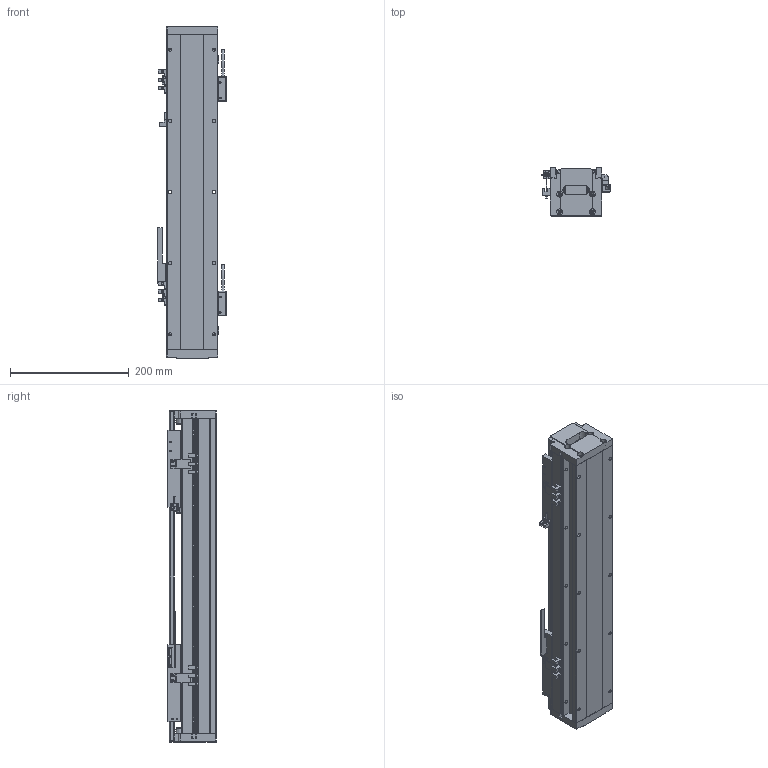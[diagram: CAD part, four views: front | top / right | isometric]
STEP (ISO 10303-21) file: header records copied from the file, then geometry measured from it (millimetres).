
FILE_DESCRIPTION (( 'STEP AP214' ), '1' );
FILE_NAME ('STC086-A-P-0362-2F105-MB-010-0.3.STEP', '2023-05-11T03:12:06', ( '' ), ( '' ), 'SwSTEP 2.0', 'SolidWorks 2018', '' );
FILE_SCHEMA (( 'AUTOMOTIVE_DESIGN' ));
Length unit declared in the file: millimetre
Products named in the file (62): SL-205NA-W（光电开关）; SF-202NA-W（光电开关）; STK0086-001（086读头固定块）; STK0112-01（感应片）(默认); STK0066-001（086端盖）; 賑輸SRS12M; HC-U-02-Lxxx棠掑喜; 086-Lxxxx菁釱; 蝶菜17x14x10; LMD-2-R001-V5-L0.3-C0-F00（磁栅编码器）; 086-SE1-040-S賑怢; STK0095-001（多动子感应片）; STK080-F105賑怢蚾饜极; SKT0112-02（线缆固定件）; 絳寢SRS12M+xxxxL-G10; STK080-F105賑怢蚾饜极-1; STK013-01（磁栅压块）; 086-Lxxxx裔啣; STC086-A-P-0362-2F105-MB-010-0.3; SE040隅赽
Assembly tree (44 placements, depth 3):
  SL-205NA-W（光电开关）
  SF-202NA-W（光电开关）
  STK0086-001（086读头固定块）
  STK0112-01（感应片）(默认)
  STK0066-001（086端盖）
Bounding box: 115.7 x 81 x 560 mm (x, y, z)
Volume: 2268955.5 mm3; surface area: 693541.8 mm2
Topology: 42 solids, 42 shells, 3183 faces, 8598 edges, 5452 vertices
Faces by surface type: plane 1636, cylinder 1204, cone 289, torus 24, bspline 22, sphere 8
Entity records: 51042 total; most frequent: CARTESIAN_POINT 10273, ORIENTED_EDGE 8206, DIRECTION 8117, EDGE_CURVE 4103, AXIS2_PLACEMENT_3D 2753, VERTEX_POINT 2679, LINE 2611, VECTOR 2611
